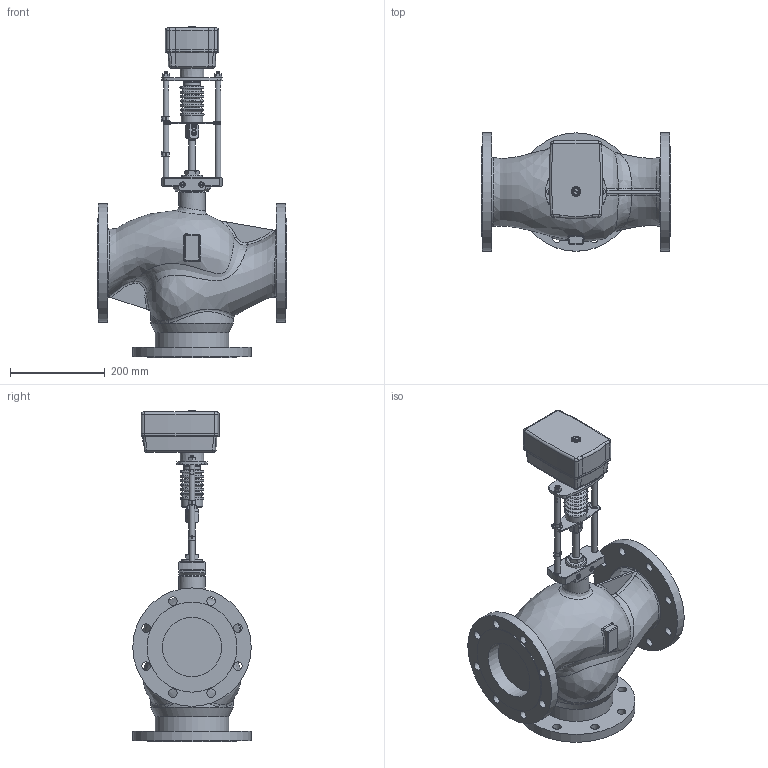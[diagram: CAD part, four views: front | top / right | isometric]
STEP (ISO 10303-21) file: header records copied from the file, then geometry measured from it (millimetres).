
FILE_DESCRIPTION(/* description */ ('Unknown'),/* implementation_level */ '2;1');
FILE_NAME(/* name */ 'TRV-3K-125-250-120',/* time_stamp */ '2023-01-16T14:08:25+03:00',/* author */ ('Unknown'),/* organization */ ('Unknown'),/* preprocessor_version */ 'ST-DEVELOPER v16.7',/* originating_system */ 'DEX',/* authorisation */ $);
FILE_SCHEMA (('AUTOMOTIVE_DESIGN {1 0 10303 214 3 1 1}'));
Length unit declared in the file: millimetre
Products named in the file (3): Êëàïàí DN125-3õ; Äó125-3õ; Ñáîðêà ¹16 3000
Assembly tree (2 placements, depth 2):
  Êëàïàí DN125-3õ
    Äó125-3õ
    Ñáîðêà ¹16 3000
Bounding box: 400 x 250 x 700.4 mm (x, y, z)
Volume: 13891934.5 mm3; surface area: 807399.7 mm2
Topology: 5 solids, 9 shells, 651 faces, 1599 edges, 1006 vertices
Faces by surface type: plane 319, cylinder 155, cone 78, bspline 54, torus 37, sphere 8
Full cylindrical faces by diameter (mm): 4.134 x2, 5 x2, 5.2 x4, 6.647 x2, 8 x6, 10 x2, 10.5 x1, 12.002 x4, 13.8 x2, 14 x2, 15 x1, 15.6 x1, 18 x24, 20 x1, 35.301 x2, 35.4 x1, 44 x2, 44.5 x1, 45.4 x1, 49.272 x1, 55 x1, 125 x3, 155 x1, 190 x3, 250 x3
Entity records: 25935 total; most frequent: CARTESIAN_POINT 8385, DIRECTION 2885, ORIENTED_EDGE 2786, EDGE_CURVE 1393, AXIS2_PLACEMENT_3D 1147, VERTEX_POINT 941, FACE_BOUND 906, EDGE_LOOP 904
